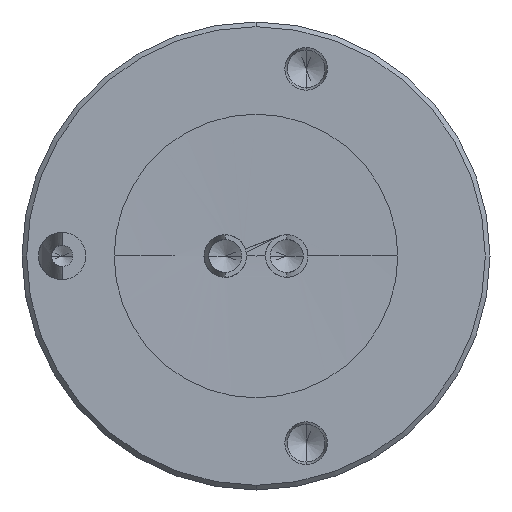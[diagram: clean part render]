
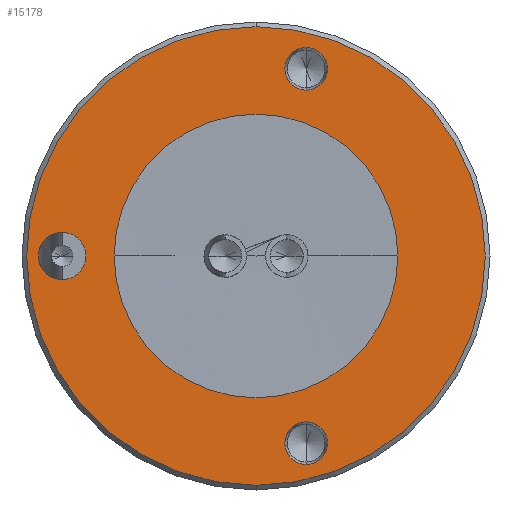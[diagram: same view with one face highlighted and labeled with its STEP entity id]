
A CAD part, left-side view. The second image highlights one B-rep face of the part: STEP entity #15178.
In plain terms, the highlighted planar face has unit normal (-1, 0, 0).
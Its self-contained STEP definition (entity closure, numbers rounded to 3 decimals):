
#2712=CARTESIAN_POINT('',(-12.5,0.,0.));
#2713=DIRECTION('',(1.,0.,0.));
#2714=DIRECTION('',(0.,0.,-1.));
#2715=AXIS2_PLACEMENT_3D('',#2712,#2713,#2714);
#2717=CARTESIAN_POINT('',(-12.5,0.,0.));
#2718=DIRECTION('',(1.,0.,0.));
#2719=DIRECTION('',(0.,1.,0.));
#2720=AXIS2_PLACEMENT_3D('',#2717,#2718,#2719);
#2722=CARTESIAN_POINT('',(-12.5,0.,0.));
#2723=DIRECTION('',(1.,0.,0.));
#2724=DIRECTION('',(0.,0.,1.));
#2725=AXIS2_PLACEMENT_3D('',#2722,#2723,#2724);
#2727=CARTESIAN_POINT('',(-12.5,0.,0.));
#2728=DIRECTION('',(1.,0.,0.));
#2729=DIRECTION('',(0.,-1.,0.));
#2730=AXIS2_PLACEMENT_3D('',#2727,#2728,#2729);
#2732=CARTESIAN_POINT('',(-12.5,0.,0.));
#2733=DIRECTION('',(-1.,0.,0.));
#2734=DIRECTION('',(0.,0.,-1.));
#2735=AXIS2_PLACEMENT_3D('',#2732,#2733,#2734);
#2737=CARTESIAN_POINT('',(-12.5,0.,0.));
#2738=DIRECTION('',(-1.,0.,0.));
#2739=DIRECTION('',(0.,0.,1.));
#2740=AXIS2_PLACEMENT_3D('',#2737,#2738,#2739);
#2742=CARTESIAN_POINT('',(-12.5,4.1,0.));
#2743=DIRECTION('',(-1.,0.,0.));
#2744=DIRECTION('',(0.,0.,1.));
#2745=AXIS2_PLACEMENT_3D('',#2742,#2743,#2744);
#2747=CARTESIAN_POINT('',(-12.5,4.1,0.));
#2748=DIRECTION('',(-1.,0.,0.));
#2749=DIRECTION('',(0.,1.,0.));
#2750=AXIS2_PLACEMENT_3D('',#2747,#2748,#2749);
#2752=CARTESIAN_POINT('',(-12.5,4.1,0.));
#2753=DIRECTION('',(-1.,0.,0.));
#2754=DIRECTION('',(0.,0.,-1.));
#2755=AXIS2_PLACEMENT_3D('',#2752,#2753,#2754);
#2757=CARTESIAN_POINT('',(-12.5,4.1,0.));
#2758=DIRECTION('',(-1.,0.,0.));
#2759=DIRECTION('',(0.,-1.,0.));
#2760=AXIS2_PLACEMENT_3D('',#2757,#2758,#2759);
#2762=CARTESIAN_POINT('',(-12.5,-1.061,-3.96));
#2763=DIRECTION('',(-1.,0.,0.));
#2764=DIRECTION('',(0.,0.,1.));
#2765=AXIS2_PLACEMENT_3D('',#2762,#2763,#2764);
#2767=CARTESIAN_POINT('',(-12.5,-1.061,-3.96));
#2768=DIRECTION('',(-1.,0.,0.));
#2769=DIRECTION('',(0.,1.,0.));
#2770=AXIS2_PLACEMENT_3D('',#2767,#2768,#2769);
#2772=CARTESIAN_POINT('',(-12.5,-1.061,-3.96));
#2773=DIRECTION('',(-1.,0.,0.));
#2774=DIRECTION('',(0.,0.,-1.));
#2775=AXIS2_PLACEMENT_3D('',#2772,#2773,#2774);
#2777=CARTESIAN_POINT('',(-12.5,-1.061,-3.96));
#2778=DIRECTION('',(-1.,0.,0.));
#2779=DIRECTION('',(0.,-1.,0.));
#2780=AXIS2_PLACEMENT_3D('',#2777,#2778,#2779);
#2782=CARTESIAN_POINT('',(-12.5,-1.061,3.96));
#2783=DIRECTION('',(-1.,0.,0.));
#2784=DIRECTION('',(0.,0.,1.));
#2785=AXIS2_PLACEMENT_3D('',#2782,#2783,#2784);
#2787=CARTESIAN_POINT('',(-12.5,-1.061,3.96));
#2788=DIRECTION('',(-1.,0.,0.));
#2789=DIRECTION('',(0.,1.,0.));
#2790=AXIS2_PLACEMENT_3D('',#2787,#2788,#2789);
#2792=CARTESIAN_POINT('',(-12.5,-1.061,3.96));
#2793=DIRECTION('',(-1.,0.,0.));
#2794=DIRECTION('',(0.,0.,-1.));
#2795=AXIS2_PLACEMENT_3D('',#2792,#2793,#2794);
#2797=CARTESIAN_POINT('',(-12.5,-1.061,3.96));
#2798=DIRECTION('',(-1.,0.,0.));
#2799=DIRECTION('',(0.,-1.,0.));
#2800=AXIS2_PLACEMENT_3D('',#2797,#2798,#2799);
#5689=CARTESIAN_POINT('',(-12.5,-4.85,0.));
#5690=CARTESIAN_POINT('',(-12.5,0.,-4.85));
#5691=VERTEX_POINT('',#5689);
#5692=VERTEX_POINT('',#5690);
#5693=CARTESIAN_POINT('',(-12.5,0.,4.85));
#5694=VERTEX_POINT('',#5693);
#5695=CARTESIAN_POINT('',(-12.5,4.85,0.));
#5696=VERTEX_POINT('',#5695);
#5697=CARTESIAN_POINT('',(-12.5,0.,-3.));
#5698=CARTESIAN_POINT('',(-12.5,0.,3.));
#5699=VERTEX_POINT('',#5697);
#5700=VERTEX_POINT('',#5698);
#5701=CARTESIAN_POINT('',(-12.5,4.551,0.));
#5702=CARTESIAN_POINT('',(-12.5,4.1,-0.451));
#5703=VERTEX_POINT('',#5701);
#5704=VERTEX_POINT('',#5702);
#5705=CARTESIAN_POINT('',(-12.5,4.1,0.451));
#5706=VERTEX_POINT('',#5705);
#5707=CARTESIAN_POINT('',(-12.5,3.649,0.));
#5708=VERTEX_POINT('',#5707);
#5709=CARTESIAN_POINT('',(-12.5,-0.61,-3.96));
#5710=CARTESIAN_POINT('',(-12.5,-1.061,-4.411));
#5711=VERTEX_POINT('',#5709);
#5712=VERTEX_POINT('',#5710);
#5713=CARTESIAN_POINT('',(-12.5,-1.061,-3.509));
#5714=VERTEX_POINT('',#5713);
#5715=CARTESIAN_POINT('',(-12.5,-1.512,-3.96));
#5716=VERTEX_POINT('',#5715);
#5717=CARTESIAN_POINT('',(-12.5,-0.61,3.96));
#5718=CARTESIAN_POINT('',(-12.5,-1.061,3.509));
#5719=VERTEX_POINT('',#5717);
#5720=VERTEX_POINT('',#5718);
#5721=CARTESIAN_POINT('',(-12.5,-1.061,4.411));
#5722=VERTEX_POINT('',#5721);
#5723=CARTESIAN_POINT('',(-12.5,-1.512,3.96));
#5724=VERTEX_POINT('',#5723);
#15129=CARTESIAN_POINT('',(-12.5,0.,0.));
#15130=DIRECTION('',(1.,0.,0.));
#15131=DIRECTION('',(0.,0.,-1.));
#15132=AXIS2_PLACEMENT_3D('',#15129,#15130,#15131);
#15133=PLANE('',#15132);
#15135=ORIENTED_EDGE('',*,*,#15134,.T.);
#15137=ORIENTED_EDGE('',*,*,#15136,.T.);
#15138=ORIENTED_EDGE('',*,*,#15111,.T.);
#15139=ORIENTED_EDGE('',*,*,#15109,.T.);
#15140=EDGE_LOOP('',(#15135,#15137,#15138,#15139));
#15141=FACE_OUTER_BOUND('',#15140,.F.);
#15143=ORIENTED_EDGE('',*,*,#15142,.T.);
#15145=ORIENTED_EDGE('',*,*,#15144,.T.);
#15146=EDGE_LOOP('',(#15143,#15145));
#15147=FACE_BOUND('',#15146,.F.);
#15149=ORIENTED_EDGE('',*,*,#15148,.T.);
#15151=ORIENTED_EDGE('',*,*,#15150,.T.);
#15153=ORIENTED_EDGE('',*,*,#15152,.T.);
#15155=ORIENTED_EDGE('',*,*,#15154,.T.);
#15156=EDGE_LOOP('',(#15149,#15151,#15153,#15155));
#15157=FACE_BOUND('',#15156,.F.);
#15159=ORIENTED_EDGE('',*,*,#15158,.T.);
#15161=ORIENTED_EDGE('',*,*,#15160,.T.);
#15163=ORIENTED_EDGE('',*,*,#15162,.T.);
#15165=ORIENTED_EDGE('',*,*,#15164,.T.);
#15166=EDGE_LOOP('',(#15159,#15161,#15163,#15165));
#15167=FACE_BOUND('',#15166,.F.);
#15169=ORIENTED_EDGE('',*,*,#15168,.T.);
#15171=ORIENTED_EDGE('',*,*,#15170,.T.);
#15173=ORIENTED_EDGE('',*,*,#15172,.T.);
#15175=ORIENTED_EDGE('',*,*,#15174,.T.);
#15176=EDGE_LOOP('',(#15169,#15171,#15173,#15175));
#15177=FACE_BOUND('',#15176,.F.);
#2716=CIRCLE('',#2715,4.85);
#2721=CIRCLE('',#2720,4.85);
#2726=CIRCLE('',#2725,4.85);
#2731=CIRCLE('',#2730,4.85);
#2736=CIRCLE('',#2735,3.);
#2741=CIRCLE('',#2740,3.);
#2746=CIRCLE('',#2745,0.451);
#2751=CIRCLE('',#2750,0.451);
#2756=CIRCLE('',#2755,0.451);
#2761=CIRCLE('',#2760,0.451);
#2766=CIRCLE('',#2765,0.451);
#2771=CIRCLE('',#2770,0.451);
#2776=CIRCLE('',#2775,0.451);
#2781=CIRCLE('',#2780,0.451);
#2786=CIRCLE('',#2785,0.451);
#2791=CIRCLE('',#2790,0.451);
#2796=CIRCLE('',#2795,0.451);
#2801=CIRCLE('',#2800,0.451);
#15109=EDGE_CURVE('',#5691,#5692,#2731,.T.);
#15111=EDGE_CURVE('',#5694,#5691,#2726,.T.);
#15134=EDGE_CURVE('',#5692,#5696,#2716,.T.);
#15136=EDGE_CURVE('',#5696,#5694,#2721,.T.);
#15142=EDGE_CURVE('',#5699,#5700,#2736,.T.);
#15144=EDGE_CURVE('',#5700,#5699,#2741,.T.);
#15148=EDGE_CURVE('',#5706,#5703,#2746,.T.);
#15150=EDGE_CURVE('',#5703,#5704,#2751,.T.);
#15152=EDGE_CURVE('',#5704,#5708,#2756,.T.);
#15154=EDGE_CURVE('',#5708,#5706,#2761,.T.);
#15158=EDGE_CURVE('',#5714,#5711,#2766,.T.);
#15160=EDGE_CURVE('',#5711,#5712,#2771,.T.);
#15162=EDGE_CURVE('',#5712,#5716,#2776,.T.);
#15164=EDGE_CURVE('',#5716,#5714,#2781,.T.);
#15168=EDGE_CURVE('',#5722,#5719,#2786,.T.);
#15170=EDGE_CURVE('',#5719,#5720,#2791,.T.);
#15172=EDGE_CURVE('',#5720,#5724,#2796,.T.);
#15174=EDGE_CURVE('',#5724,#5722,#2801,.T.);
#15178=ADVANCED_FACE('',(#15141,#15147,#15157,#15167,#15177),#15133,.F.);
